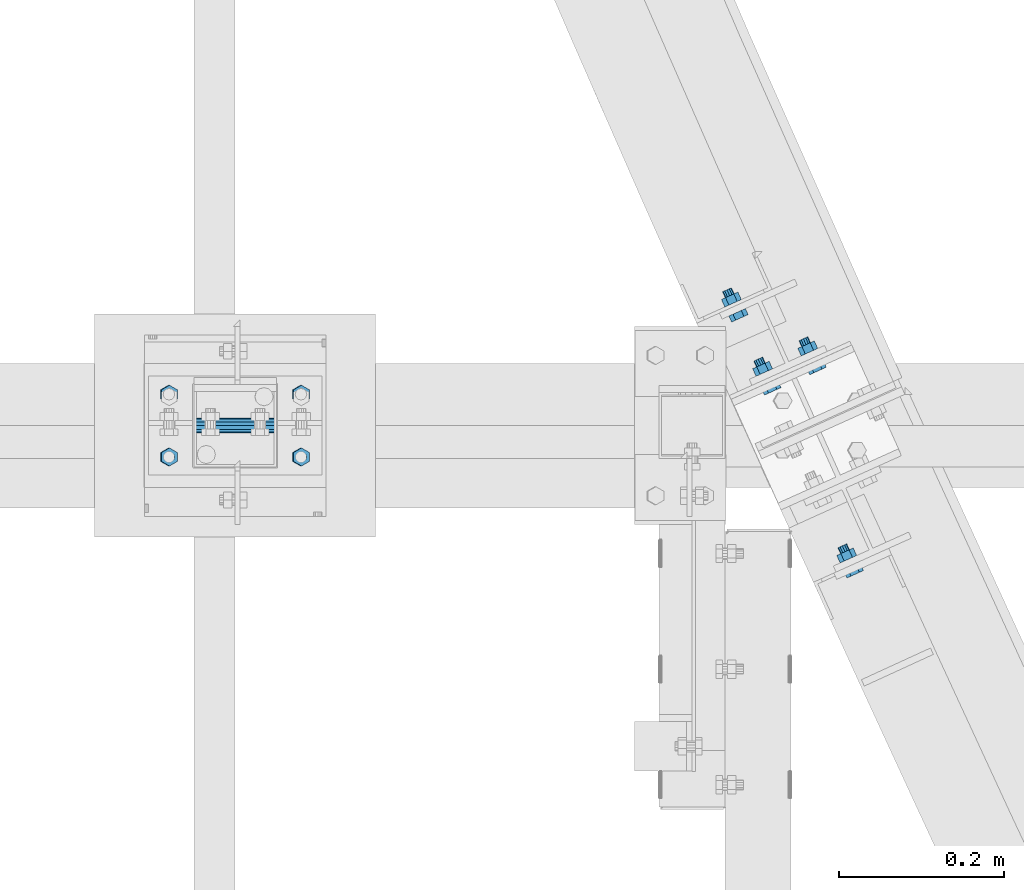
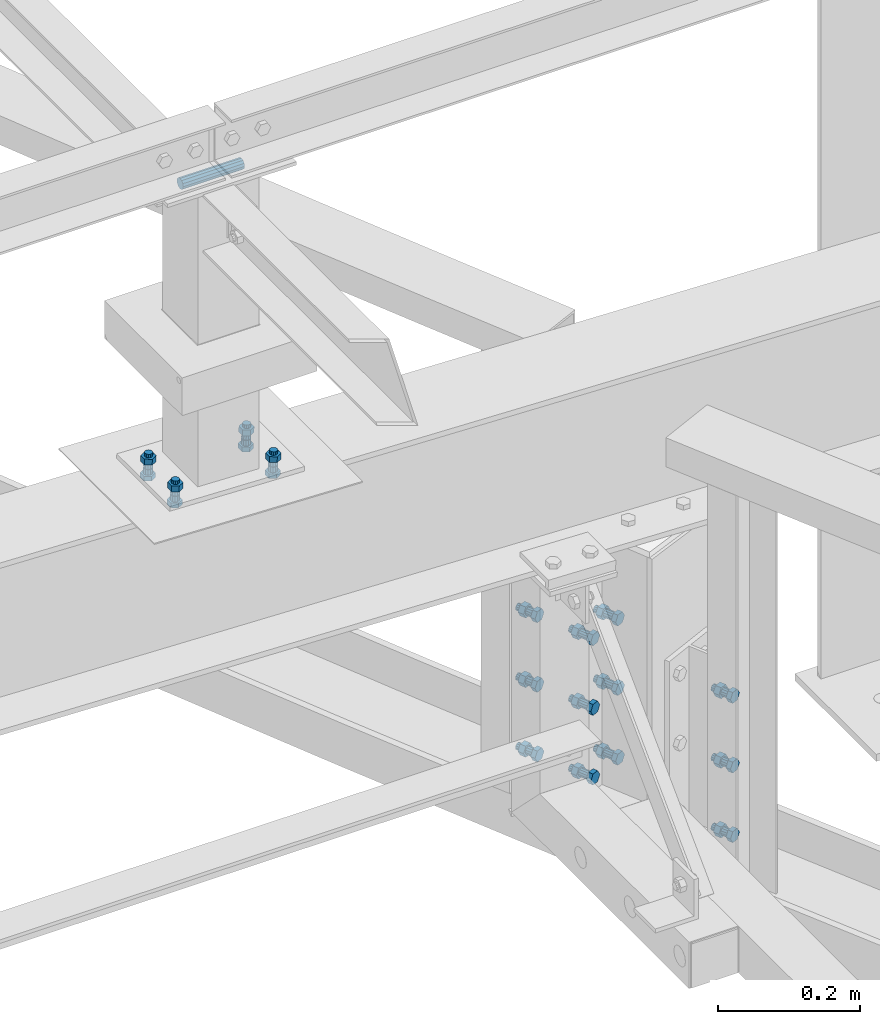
# One storey, part 50 of 3134: 5 mechanical fasteners, 4 elements without a shape of their own.
"""IFC2X3 building model written with IfcOpenShell, lengths in millimetres."""

from ifc_helpers import new_model, si_unit, frame, origin_with_axes, place, context, subcontext, project, spatial, faceted_brep, source, transform, mapped, material, type_object, element, aggregate, save


model = new_model("IFC2X3")

# Units and contexts
model_context = context("Model", 3, precision=1e-05, world=origin_with_axes())
body_context = subcontext(model_context, "Body", "Model", "MODEL_VIEW")
ifc_project = project(units=[si_unit("LENGTHUNIT", "METRE", prefix="MILLI"), si_unit("AREAUNIT", "SQUARE_METRE"), si_unit("VOLUMEUNIT", "CUBIC_METRE"), si_unit("MASSUNIT", "GRAM", prefix="KILO"), si_unit("TIMEUNIT", "SECOND"), si_unit("PLANEANGLEUNIT", "RADIAN"), si_unit("SOLIDANGLEUNIT", "STERADIAN"), si_unit("THERMODYNAMICTEMPERATUREUNIT", "DEGREE_CELSIUS"), si_unit("LUMINOUSINTENSITYUNIT", "LUMEN")], contexts=[model_context])

# Site, building, storey
site_placement = place(None, origin_with_axes())
site = spatial("IfcSite", under=ifc_project, at=site_placement, CompositionType="ELEMENT")
building_placement = place(site_placement, origin_with_axes())
building = spatial("IfcBuilding", under=site, at=building_placement, Name="Undefined", CompositionType="ELEMENT")
storey_placement = place(building_placement, origin_with_axes())
storey = spatial("IfcBuildingStorey", under=building, at=storey_placement, Name="Undefined", CompositionType="ELEMENT", Elevation=0.0)

# Assembly, mechanical fastener
assembly_1_placement = place(storey_placement, origin_with_axes())
assembly_1 = element("IfcElementAssembly", 1, at=assembly_1_placement, inside=storey, Name="HEA100", AssemblyPlace="NOTDEFINED", PredefinedType="RIGID_FRAME")
ifc_material = material(Name="8.8")
mechanical_fastener_type = type_object("IfcMechanicalFastenerType", Name="Bolt assembly")
shared_shape_1 = source(origin_with_axes(), body_context, "Body", "Brep", [
    faceted_brep([(10.9696551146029, -16.0, 0.0), (5.48482755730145, -16.0, 9.5), (-5.48482755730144, -16.0, 9.5), (-10.9696551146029, -16.0, 1.34339530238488e-15), (-5.48482755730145, -16.0, -9.5), (5.48482755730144, -16.0, -9.50000000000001), (5.48482755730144, -8.0, -9.50000000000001), (-5.48482755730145, -8.0, -9.5), (-10.9696551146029, -8.0, 1.34339530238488e-15), (-5.48482755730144, -8.0, 9.5), (5.48482755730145, -8.0, 9.5), (10.9696551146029, -8.0, 0.0), (6.0, -8.0, 0.0), (5.19615242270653, -8.0, 3.00000000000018), (2.99999999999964, -8.0, 5.19615242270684), (-6.21801588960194e-13, -8.0, 6.0), (-3.00000000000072, -8.0, 5.19615242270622), (-5.19615242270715, -8.0, 2.9999999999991), (-6.0, -8.0, -1.24360317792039e-12), (-5.19615242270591, -8.0, -3.00000000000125), (-2.99999999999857, -8.0, -5.19615242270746), (1.85874342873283e-12, -8.0, -6.0), (3.00000000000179, -8.0, -5.1961524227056), (5.19615242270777, -8.0, -2.99999999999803), (5.19615242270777, 22.0, -2.99999999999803), (3.00000000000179, 22.0, -5.1961524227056), (1.85874342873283e-12, 22.0, -6.0), (-2.99999999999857, 22.0, -5.19615242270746), (-5.19615242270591, 22.0, -3.00000000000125), (-6.0, 22.0, -1.24360317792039e-12), (-5.19615242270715, 22.0, 2.9999999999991), (-3.00000000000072, 22.0, 5.19615242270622), (-6.21801588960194e-13, 22.0, 6.0), (2.99999999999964, 22.0, 5.19615242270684), (5.19615242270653, 22.0, 3.00000000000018), (6.0, 22.0, 0.0), (10.9696551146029, 4.00000000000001, 0.0), (5.48482755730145, 4.00000000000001, 9.5), (-5.48482755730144, 4.00000000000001, 9.5), (-10.9696551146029, 4.00000000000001, 1.34339530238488e-15), (-5.48482755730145, 4.00000000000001, -9.5), (5.48482755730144, 4.00000000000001, -9.50000000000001), (5.48482755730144, 14.0, -9.50000000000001), (-5.48482755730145, 14.0, -9.5), (-10.9696551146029, 14.0, 1.34339530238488e-15), (-5.48482755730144, 14.0, 9.5), (5.48482755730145, 14.0, 9.5), (10.9696551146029, 14.0, 0.0)], [[[0, 1, 2, 3, 4, 5]], [[6, 7, 8, 9, 10, 11]], [[0, 11, 10, 1]], [[1, 10, 9, 2]], [[2, 9, 8, 3]], [[3, 8, 7, 4]], [[4, 7, 6, 5]], [[5, 6, 11, 0]], [[12, 13, 14, 15, 16, 17, 18, 19, 20, 21, 22, 23]], [[24, 25, 26, 27, 28, 29, 30, 31, 32, 33, 34, 35]], [[12, 35, 34, 13]], [[13, 34, 33, 14]], [[14, 33, 32, 15]], [[15, 32, 31, 16]], [[16, 31, 30, 17]], [[17, 30, 29, 18]], [[18, 29, 28, 19]], [[19, 28, 27, 20]], [[20, 27, 26, 21]], [[21, 26, 25, 22]], [[22, 25, 24, 23]], [[23, 24, 35, 12]], [[36, 37, 38, 39, 40, 41]], [[42, 43, 44, 45, 46, 47]], [[36, 47, 46, 37]], [[37, 46, 45, 38]], [[38, 45, 44, 39]], [[39, 44, 43, 40]], [[40, 43, 42, 41]], [[41, 42, 47, 36]]]),
    faceted_brep([(7.0, -0.1, 0.0), (6.06217782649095, -0.1, 3.50000000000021), (3.49999999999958, -0.1, 6.06217782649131), (-7.25435187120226e-13, -0.1, 7.0), (-3.50000000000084, -0.1, 6.06217782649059), (-6.06217782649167, -0.1, 3.49999999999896), (-7.0, -0.1, -1.45087037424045e-12), (-6.06217782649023, -0.1, -3.50000000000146), (-3.49999999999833, -0.1, -6.06217782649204), (2.1685340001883e-12, -0.1, -7.0), (3.50000000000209, -0.1, -6.06217782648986), (6.0621778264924, -0.1, -3.4999999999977), (6.0621778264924, 4.00000000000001, -3.4999999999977), (3.50000000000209, 4.00000000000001, -6.06217782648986), (2.1685340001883e-12, 4.00000000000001, -7.0), (-3.49999999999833, 4.00000000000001, -6.06217782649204), (-6.06217782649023, 4.00000000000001, -3.50000000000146), (-7.0, 4.00000000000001, -1.45087037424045e-12), (-6.06217782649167, 4.00000000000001, 3.49999999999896), (-3.50000000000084, 4.00000000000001, 6.06217782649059), (-7.25435187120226e-13, 4.00000000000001, 7.0), (3.49999999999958, 4.00000000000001, 6.06217782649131), (6.06217782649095, 4.00000000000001, 3.50000000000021), (7.0, 4.00000000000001, 0.0), (7.0, -7.9, 0.0), (6.06217782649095, -7.9, 3.50000000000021), (3.49999999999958, -7.9, 6.06217782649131), (-7.25435187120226e-13, -7.9, 7.0), (-3.50000000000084, -7.9, 6.06217782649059), (-6.06217782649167, -7.9, 3.49999999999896), (-7.0, -7.9, -1.45087037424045e-12), (-6.06217782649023, -7.9, -3.50000000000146), (-3.49999999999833, -7.9, -6.06217782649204), (2.1685340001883e-12, -7.9, -7.0), (3.50000000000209, -7.9, -6.06217782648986), (6.0621778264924, -7.9, -3.4999999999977), (6.0621778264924, 0.0999999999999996, -3.4999999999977), (3.50000000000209, 0.0999999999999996, -6.06217782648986), (2.1685340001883e-12, 0.0999999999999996, -7.0), (-3.49999999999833, 0.0999999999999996, -6.06217782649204), (-6.06217782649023, 0.0999999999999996, -3.50000000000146), (-7.0, 0.0999999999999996, -1.45087037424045e-12), (-6.06217782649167, 0.0999999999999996, 3.49999999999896), (-3.50000000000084, 0.0999999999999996, 6.06217782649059), (-7.25435187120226e-13, 0.0999999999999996, 7.0), (3.49999999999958, 0.0999999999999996, 6.06217782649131), (6.06217782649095, 0.0999999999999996, 3.50000000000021), (7.0, 0.0999999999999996, 0.0)], [[[0, 1, 2, 3, 4, 5, 6, 7, 8, 9, 10, 11]], [[12, 13, 14, 15, 16, 17, 18, 19, 20, 21, 22, 23]], [[0, 23, 22, 1]], [[1, 22, 21, 2]], [[2, 21, 20, 3]], [[3, 20, 19, 4]], [[4, 19, 18, 5]], [[5, 18, 17, 6]], [[6, 17, 16, 7]], [[7, 16, 15, 8]], [[8, 15, 14, 9]], [[9, 14, 13, 10]], [[10, 13, 12, 11]], [[11, 12, 23, 0]], [[24, 25, 26, 27, 28, 29, 30, 31, 32, 33, 34, 35]], [[36, 37, 38, 39, 40, 41, 42, 43, 44, 45, 46, 47]], [[24, 47, 46, 25]], [[25, 46, 45, 26]], [[26, 45, 44, 27]], [[27, 44, 43, 28]], [[28, 43, 42, 29]], [[29, 42, 41, 30]], [[30, 41, 40, 31]], [[31, 40, 39, 32]], [[32, 39, 38, 33]], [[33, 38, 37, 34]], [[34, 37, 36, 35]], [[35, 36, 47, 24]]]),
])
mechanical_fastener_1_placement = place(assembly_1_placement, frame((6296.25652461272, 15334.5011868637, 3170.0), z_axis=(0.0, 0.0, 1.0), x_axis=(0.911760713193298, 0.410721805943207, 0.0)))
mechanical_fastener_1 = element("IfcMechanicalFastener", 2, at=mechanical_fastener_1_placement, type_object=mechanical_fastener_type, material=ifc_material, Name="Bolt assembly", NominalDiameter=12.0, NominalLength=30.0, context=body_context, shape_type="MappedRepresentation", body=[
    mapped(shared_shape_1, transform((0.0, 0.0, -120.0))),
    mapped(shared_shape_1, transform((0.0, 0.0, 0.0))),
    mapped(shared_shape_1, transform((0.0, 0.0, 120.0))),
])
aggregate(assembly_1, [mechanical_fastener_1])

assembly_2_placement = place(storey_placement, origin_with_axes())
assembly_2 = element("IfcElementAssembly", 3, at=assembly_2_placement, inside=storey, Name="HEA100", AssemblyPlace="NOTDEFINED", PredefinedType="RIGID_FRAME")
shared_shape_2 = source(origin_with_axes(), body_context, "Body", "Brep", [
    faceted_brep([(10.9696551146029, -12.0, 0.0), (5.48482755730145, -12.0, 9.5), (-5.48482755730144, -12.0, 9.5), (-10.9696551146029, -12.0, 1.34339530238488e-15), (-5.48482755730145, -12.0, -9.5), (5.48482755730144, -12.0, -9.50000000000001), (5.48482755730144, -4.0, -9.50000000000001), (-5.48482755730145, -4.0, -9.5), (-10.9696551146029, -4.0, 1.34339530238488e-15), (-5.48482755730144, -4.0, 9.5), (5.48482755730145, -4.0, 9.5), (10.9696551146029, -4.0, 0.0), (6.0, -4.0, 0.0), (5.19615242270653, -4.0, 3.00000000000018), (2.99999999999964, -4.0, 5.19615242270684), (-6.21801588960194e-13, -4.0, 6.0), (-3.00000000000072, -4.0, 5.19615242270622), (-5.19615242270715, -4.0, 2.9999999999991), (-6.0, -4.0, -1.24360317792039e-12), (-5.19615242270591, -4.0, -3.00000000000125), (-2.99999999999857, -4.0, -5.19615242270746), (1.85874342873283e-12, -4.0, -6.0), (3.00000000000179, -4.0, -5.1961524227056), (5.19615242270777, -4.0, -2.99999999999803), (5.19615242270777, 26.0, -2.99999999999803), (3.00000000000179, 26.0, -5.1961524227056), (1.85874342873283e-12, 26.0, -6.0), (-2.99999999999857, 26.0, -5.19615242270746), (-5.19615242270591, 26.0, -3.00000000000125), (-6.0, 26.0, -1.24360317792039e-12), (-5.19615242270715, 26.0, 2.9999999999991), (-3.00000000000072, 26.0, 5.19615242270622), (-6.21801588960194e-13, 26.0, 6.0), (2.99999999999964, 26.0, 5.19615242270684), (5.19615242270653, 26.0, 3.00000000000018), (6.0, 26.0, 0.0), (10.9696551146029, 8.0, 0.0), (5.48482755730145, 8.0, 9.5), (-5.48482755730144, 8.0, 9.5), (-10.9696551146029, 8.0, 1.34339530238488e-15), (-5.48482755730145, 8.0, -9.5), (5.48482755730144, 8.0, -9.50000000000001), (5.48482755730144, 18.0, -9.50000000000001), (-5.48482755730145, 18.0, -9.5), (-10.9696551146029, 18.0, 1.34339530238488e-15), (-5.48482755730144, 18.0, 9.5), (5.48482755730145, 18.0, 9.5), (10.9696551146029, 18.0, 0.0)], [[[0, 1, 2, 3, 4, 5]], [[6, 7, 8, 9, 10, 11]], [[0, 11, 10, 1]], [[1, 10, 9, 2]], [[2, 9, 8, 3]], [[3, 8, 7, 4]], [[4, 7, 6, 5]], [[5, 6, 11, 0]], [[12, 13, 14, 15, 16, 17, 18, 19, 20, 21, 22, 23]], [[24, 25, 26, 27, 28, 29, 30, 31, 32, 33, 34, 35]], [[12, 35, 34, 13]], [[13, 34, 33, 14]], [[14, 33, 32, 15]], [[15, 32, 31, 16]], [[16, 31, 30, 17]], [[17, 30, 29, 18]], [[18, 29, 28, 19]], [[19, 28, 27, 20]], [[20, 27, 26, 21]], [[21, 26, 25, 22]], [[22, 25, 24, 23]], [[23, 24, 35, 12]], [[36, 37, 38, 39, 40, 41]], [[42, 43, 44, 45, 46, 47]], [[36, 47, 46, 37]], [[37, 46, 45, 38]], [[38, 45, 44, 39]], [[39, 44, 43, 40]], [[40, 43, 42, 41]], [[41, 42, 47, 36]]]),
    faceted_brep([(7.0, -3.9, 0.0), (6.06217782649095, -3.9, 3.50000000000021), (3.49999999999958, -3.9, 6.06217782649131), (-7.25435187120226e-13, -3.9, 7.0), (-3.50000000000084, -3.9, 6.06217782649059), (-6.06217782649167, -3.9, 3.49999999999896), (-7.0, -3.9, -1.45087037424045e-12), (-6.06217782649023, -3.9, -3.50000000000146), (-3.49999999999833, -3.9, -6.06217782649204), (2.1685340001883e-12, -3.9, -7.0), (3.50000000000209, -3.9, -6.06217782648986), (6.0621778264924, -3.9, -3.4999999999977), (6.0621778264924, 0.0999999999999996, -3.4999999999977), (3.50000000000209, 0.0999999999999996, -6.06217782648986), (2.1685340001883e-12, 0.0999999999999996, -7.0), (-3.49999999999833, 0.0999999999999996, -6.06217782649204), (-6.06217782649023, 0.0999999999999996, -3.50000000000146), (-7.0, 0.0999999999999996, -1.45087037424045e-12), (-6.06217782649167, 0.0999999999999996, 3.49999999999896), (-3.50000000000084, 0.0999999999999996, 6.06217782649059), (-7.25435187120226e-13, 0.0999999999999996, 7.0), (3.49999999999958, 0.0999999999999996, 6.06217782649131), (6.06217782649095, 0.0999999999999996, 3.50000000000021), (7.0, 0.0999999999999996, 0.0), (7.0, -0.1, 0.0), (6.06217782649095, -0.1, 3.50000000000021), (3.49999999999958, -0.1, 6.06217782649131), (-7.25435187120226e-13, -0.1, 7.0), (-3.50000000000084, -0.1, 6.06217782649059), (-6.06217782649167, -0.1, 3.49999999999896), (-7.0, -0.1, -1.45087037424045e-12), (-6.06217782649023, -0.1, -3.50000000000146), (-3.49999999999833, -0.1, -6.06217782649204), (2.1685340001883e-12, -0.1, -7.0), (3.50000000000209, -0.1, -6.06217782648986), (6.0621778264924, -0.1, -3.4999999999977), (6.0621778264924, 8.0000000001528, -3.4999999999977), (3.50000000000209, 8.0000000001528, -6.06217782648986), (2.1685340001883e-12, 8.0000000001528, -7.0), (-3.49999999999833, 8.0000000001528, -6.06217782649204), (-6.06217782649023, 8.0000000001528, -3.50000000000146), (-7.0, 8.0000000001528, -1.45087037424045e-12), (-6.06217782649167, 8.0000000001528, 3.49999999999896), (-3.50000000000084, 8.0000000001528, 6.06217782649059), (-7.25435187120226e-13, 8.0000000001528, 7.0), (3.49999999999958, 8.0000000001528, 6.06217782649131), (6.06217782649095, 8.0000000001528, 3.50000000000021), (7.0, 8.0000000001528, 0.0)], [[[0, 1, 2, 3, 4, 5, 6, 7, 8, 9, 10, 11]], [[12, 13, 14, 15, 16, 17, 18, 19, 20, 21, 22, 23]], [[0, 23, 22, 1]], [[1, 22, 21, 2]], [[2, 21, 20, 3]], [[3, 20, 19, 4]], [[4, 19, 18, 5]], [[5, 18, 17, 6]], [[6, 17, 16, 7]], [[7, 16, 15, 8]], [[8, 15, 14, 9]], [[9, 14, 13, 10]], [[10, 13, 12, 11]], [[11, 12, 23, 0]], [[24, 25, 26, 27, 28, 29, 30, 31, 32, 33, 34, 35]], [[36, 37, 38, 39, 40, 41, 42, 43, 44, 45, 46, 47]], [[24, 47, 46, 25]], [[25, 46, 45, 26]], [[26, 45, 44, 27]], [[27, 44, 43, 28]], [[28, 43, 42, 29]], [[29, 42, 41, 30]], [[30, 41, 40, 31]], [[31, 40, 39, 32]], [[32, 39, 38, 33]], [[33, 38, 37, 34]], [[34, 37, 36, 35]], [[35, 36, 47, 24]]]),
])
mechanical_fastener_2_placement = place(assembly_2_placement, frame((6437.54483106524, 15020.8555038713, 3170.0), z_axis=(0.0, 0.0, 1.0), x_axis=(0.911760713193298, 0.410721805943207, 0.0)))
mechanical_fastener_2 = element("IfcMechanicalFastener", 4, at=mechanical_fastener_2_placement, type_object=mechanical_fastener_type, material=ifc_material, Name="Bolt assembly", NominalDiameter=12.0, NominalLength=30.0, context=body_context, shape_type="MappedRepresentation", body=[
    mapped(shared_shape_2, transform((0.0, 0.0, -120.0))),
    mapped(shared_shape_2, transform((0.0, 0.0, 0.0))),
    mapped(shared_shape_2, transform((0.0, 0.0, 120.0))),
])
aggregate(assembly_2, [mechanical_fastener_2])

assembly_3_placement = place(storey_placement, origin_with_axes())
assembly_3 = element("IfcElementAssembly", 5, at=assembly_3_placement, inside=storey, Name="HEA160", AssemblyPlace="NOTDEFINED", PredefinedType="RIGID_FRAME")
shared_shape_3 = source(origin_with_axes(), body_context, "Body", "Brep", [
    faceted_brep([(10.9696551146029, -17.0000000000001, 0.0), (5.48482755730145, -17.0000000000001, 9.5), (-5.48482755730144, -17.0000000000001, 9.5), (-10.9696551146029, -17.0000000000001, 1.34339530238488e-15), (-5.48482755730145, -17.0000000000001, -9.5), (5.48482755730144, -17.0000000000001, -9.50000000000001), (5.48482755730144, -9.00000000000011, -9.50000000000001), (-5.48482755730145, -9.00000000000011, -9.5), (-10.9696551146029, -9.00000000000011, 1.34339530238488e-15), (-5.48482755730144, -9.00000000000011, 9.5), (5.48482755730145, -9.00000000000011, 9.5), (10.9696551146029, -9.00000000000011, 0.0), (6.0, -9.00000000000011, 0.0), (5.19615242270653, -9.00000000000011, 3.00000000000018), (2.99999999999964, -9.00000000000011, 5.19615242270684), (-6.21801588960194e-13, -9.00000000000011, 6.0), (-3.00000000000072, -9.00000000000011, 5.19615242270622), (-5.19615242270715, -9.00000000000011, 2.9999999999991), (-6.0, -9.00000000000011, -1.24360317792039e-12), (-5.19615242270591, -9.00000000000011, -3.00000000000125), (-2.99999999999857, -9.00000000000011, -5.19615242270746), (1.85874342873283e-12, -9.00000000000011, -6.0), (3.00000000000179, -9.00000000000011, -5.1961524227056), (5.19615242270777, -9.00000000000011, -2.99999999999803), (5.19615242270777, 26.0, -2.99999999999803), (3.00000000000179, 26.0, -5.1961524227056), (1.85874342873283e-12, 26.0, -6.0), (-2.99999999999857, 26.0, -5.19615242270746), (-5.19615242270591, 26.0, -3.00000000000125), (-6.0, 26.0, -1.24360317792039e-12), (-5.19615242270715, 26.0, 2.9999999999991), (-3.00000000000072, 26.0, 5.19615242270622), (-6.21801588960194e-13, 26.0, 6.0), (2.99999999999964, 26.0, 5.19615242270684), (5.19615242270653, 26.0, 3.00000000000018), (6.0, 26.0, 0.0), (10.9696551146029, 8.0, 0.0), (5.48482755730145, 8.0, 9.5), (-5.48482755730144, 8.0, 9.5), (-10.9696551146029, 8.0, 1.34339530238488e-15), (-5.48482755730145, 8.0, -9.5), (5.48482755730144, 8.0, -9.50000000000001), (5.48482755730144, 18.0, -9.50000000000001), (-5.48482755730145, 18.0, -9.5), (-10.9696551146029, 18.0, 1.34339530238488e-15), (-5.48482755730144, 18.0, 9.5), (5.48482755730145, 18.0, 9.5), (10.9696551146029, 18.0, 0.0)], [[[0, 1, 2, 3, 4, 5]], [[6, 7, 8, 9, 10, 11]], [[0, 11, 10, 1]], [[1, 10, 9, 2]], [[2, 9, 8, 3]], [[3, 8, 7, 4]], [[4, 7, 6, 5]], [[5, 6, 11, 0]], [[12, 13, 14, 15, 16, 17, 18, 19, 20, 21, 22, 23]], [[24, 25, 26, 27, 28, 29, 30, 31, 32, 33, 34, 35]], [[12, 35, 34, 13]], [[13, 34, 33, 14]], [[14, 33, 32, 15]], [[15, 32, 31, 16]], [[16, 31, 30, 17]], [[17, 30, 29, 18]], [[18, 29, 28, 19]], [[19, 28, 27, 20]], [[20, 27, 26, 21]], [[21, 26, 25, 22]], [[22, 25, 24, 23]], [[23, 24, 35, 12]], [[36, 37, 38, 39, 40, 41]], [[42, 43, 44, 45, 46, 47]], [[36, 47, 46, 37]], [[37, 46, 45, 38]], [[38, 45, 44, 39]], [[39, 44, 43, 40]], [[40, 43, 42, 41]], [[41, 42, 47, 36]]]),
    faceted_brep([(7.0, -0.1, 0.0), (6.06217782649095, -0.1, 3.50000000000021), (3.49999999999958, -0.1, 6.06217782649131), (-7.25435187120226e-13, -0.1, 7.0), (-3.50000000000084, -0.1, 6.06217782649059), (-6.06217782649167, -0.1, 3.49999999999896), (-7.0, -0.1, -1.45087037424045e-12), (-6.06217782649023, -0.1, -3.50000000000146), (-3.49999999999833, -0.1, -6.06217782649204), (2.1685340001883e-12, -0.1, -7.0), (3.50000000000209, -0.1, -6.06217782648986), (6.0621778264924, -0.1, -3.4999999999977), (6.0621778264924, 8.0000000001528, -3.4999999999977), (3.50000000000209, 8.0000000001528, -6.06217782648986), (2.1685340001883e-12, 8.0000000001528, -7.0), (-3.49999999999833, 8.0000000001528, -6.06217782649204), (-6.06217782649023, 8.0000000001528, -3.50000000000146), (-7.0, 8.0000000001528, -1.45087037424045e-12), (-6.06217782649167, 8.0000000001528, 3.49999999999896), (-3.50000000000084, 8.0000000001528, 6.06217782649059), (-7.25435187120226e-13, 8.0000000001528, 7.0), (3.49999999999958, 8.0000000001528, 6.06217782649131), (6.06217782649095, 8.0000000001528, 3.50000000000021), (7.0, 8.0000000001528, 0.0), (7.0, -8.90000000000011, 0.0), (6.06217782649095, -8.90000000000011, 3.50000000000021), (3.49999999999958, -8.90000000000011, 6.06217782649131), (-7.25435187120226e-13, -8.90000000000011, 7.0), (-3.50000000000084, -8.90000000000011, 6.06217782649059), (-6.06217782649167, -8.90000000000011, 3.49999999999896), (-7.0, -8.90000000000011, -1.45087037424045e-12), (-6.06217782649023, -8.90000000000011, -3.50000000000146), (-3.49999999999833, -8.90000000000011, -6.06217782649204), (2.1685340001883e-12, -8.90000000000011, -7.0), (3.50000000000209, -8.90000000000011, -6.06217782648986), (6.0621778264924, -8.90000000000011, -3.4999999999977), (6.0621778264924, 0.0999999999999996, -3.4999999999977), (3.50000000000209, 0.0999999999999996, -6.06217782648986), (2.1685340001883e-12, 0.0999999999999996, -7.0), (-3.49999999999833, 0.0999999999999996, -6.06217782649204), (-6.06217782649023, 0.0999999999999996, -3.50000000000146), (-7.0, 0.0999999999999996, -1.45087037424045e-12), (-6.06217782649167, 0.0999999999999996, 3.49999999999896), (-3.50000000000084, 0.0999999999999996, 6.06217782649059), (-7.25435187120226e-13, 0.0999999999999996, 7.0), (3.49999999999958, 0.0999999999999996, 6.06217782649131), (6.06217782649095, 0.0999999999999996, 3.50000000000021), (7.0, 0.0999999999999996, 0.0)], [[[0, 1, 2, 3, 4, 5, 6, 7, 8, 9, 10, 11]], [[12, 13, 14, 15, 16, 17, 18, 19, 20, 21, 22, 23]], [[0, 23, 22, 1]], [[1, 22, 21, 2]], [[2, 21, 20, 3]], [[3, 20, 19, 4]], [[4, 19, 18, 5]], [[5, 18, 17, 6]], [[6, 17, 16, 7]], [[7, 16, 15, 8]], [[8, 15, 14, 9]], [[9, 14, 13, 10]], [[10, 13, 12, 11]], [[11, 12, 23, 0]], [[24, 25, 26, 27, 28, 29, 30, 31, 32, 33, 34, 35]], [[36, 37, 38, 39, 40, 41, 42, 43, 44, 45, 46, 47]], [[24, 47, 46, 25]], [[25, 46, 45, 26]], [[26, 45, 44, 27]], [[27, 44, 43, 28]], [[28, 43, 42, 29]], [[29, 42, 41, 30]], [[30, 41, 40, 31]], [[31, 40, 39, 32]], [[32, 39, 38, 33]], [[33, 38, 37, 34]], [[34, 37, 36, 35]], [[35, 36, 47, 24]]]),
])
mechanical_fastener_3_placement = place(assembly_3_placement, frame((6335.68581943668, 15246.9721590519, 3170.0), z_axis=(0.0, 0.0, 1.0), x_axis=(0.911760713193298, 0.410721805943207, 0.0)))
mechanical_fastener_3 = element("IfcMechanicalFastener", 6, at=mechanical_fastener_3_placement, type_object=mechanical_fastener_type, material=ifc_material, Name="Bolt assembly", NominalDiameter=12.0, NominalLength=35.0, context=body_context, shape_type="MappedRepresentation", body=[
    mapped(shared_shape_3, transform((0.0, 0.0, -120.0))),
    mapped(shared_shape_3, transform((60.0000000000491, 0.0, -120.0))),
    mapped(shared_shape_3, transform((0.0, 0.0, 0.0))),
    mapped(shared_shape_3, transform((59.9999999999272, 0.0, 5.40239852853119e-10))),
    mapped(shared_shape_3, transform((0.0, 0.0, 120.0))),
    mapped(shared_shape_3, transform((60.0000000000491, 0.0, 120.0))),
])
aggregate(assembly_3, [mechanical_fastener_3])

# Assembly, mechanical fasteners
assembly_4_placement = place(storey_placement, origin_with_axes())
assembly_4 = element("IfcElementAssembly", 7, at=assembly_4_placement, inside=storey, AssemblyPlace="NOTDEFINED", PredefinedType="RIGID_FRAME")
shared_shape_4 = source(origin_with_axes(), body_context, "Body", "Brep", [
    faceted_brep([(10.9696551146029, -4.18280906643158, 0.0), (5.48482755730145, -4.18280906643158, 9.5), (-5.48482755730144, -4.18280906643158, 9.5), (-10.9696551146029, -4.18280906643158, 1.34339530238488e-15), (-5.48482755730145, -4.18280906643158, -9.5), (5.48482755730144, -4.18280906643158, -9.50000000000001), (5.48482755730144, 3.81719093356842, -9.50000000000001), (-5.48482755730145, 3.81719093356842, -9.5), (-10.9696551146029, 3.81719093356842, 1.34339530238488e-15), (-5.48482755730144, 3.81719093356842, 9.5), (5.48482755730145, 3.81719093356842, 9.5), (10.9696551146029, 3.81719093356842, 0.0), (6.0, 3.81719093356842, 0.0), (5.19615242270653, 3.81719093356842, 3.00000000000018), (2.99999999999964, 3.81719093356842, 5.19615242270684), (-6.21801588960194e-13, 3.81719093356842, 6.0), (-3.00000000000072, 3.81719093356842, 5.19615242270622), (-5.19615242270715, 3.81719093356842, 2.9999999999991), (-6.0, 3.81719093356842, -1.24360317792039e-12), (-5.19615242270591, 3.81719093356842, -3.00000000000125), (-2.99999999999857, 3.81719093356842, -5.19615242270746), (1.85874342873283e-12, 3.81719093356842, -6.0), (3.00000000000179, 3.81719093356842, -5.1961524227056), (5.19615242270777, 3.81719093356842, -2.99999999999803), (5.19615242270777, 38.8171909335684, -2.99999999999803), (3.00000000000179, 38.8171909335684, -5.1961524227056), (1.85874342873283e-12, 38.8171909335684, -6.0), (-2.99999999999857, 38.8171909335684, -5.19615242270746), (-5.19615242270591, 38.8171909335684, -3.00000000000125), (-6.0, 38.8171909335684, -1.24360317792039e-12), (-5.19615242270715, 38.8171909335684, 2.9999999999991), (-3.00000000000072, 38.8171909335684, 5.19615242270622), (-6.21801588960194e-13, 38.8171909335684, 6.0), (2.99999999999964, 38.8171909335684, 5.19615242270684), (5.19615242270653, 38.8171909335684, 3.00000000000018), (6.0, 38.8171909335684, 0.0), (10.9696551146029, 23.0139082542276, 0.0), (5.48482755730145, 23.0139082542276, 9.5), (-5.48482755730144, 23.0139082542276, 9.5), (-10.9696551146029, 23.0139082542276, 1.34339530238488e-15), (-5.48482755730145, 23.0139082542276, -9.5), (5.48482755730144, 23.0139082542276, -9.50000000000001), (5.48482755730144, 33.0139082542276, -9.50000000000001), (-5.48482755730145, 33.0139082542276, -9.5), (-10.9696551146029, 33.0139082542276, 1.34339530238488e-15), (-5.48482755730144, 33.0139082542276, 9.5), (5.48482755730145, 33.0139082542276, 9.5), (10.9696551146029, 33.0139082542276, 0.0)], [[[0, 1, 2, 3, 4, 5]], [[6, 7, 8, 9, 10, 11]], [[0, 11, 10, 1]], [[1, 10, 9, 2]], [[2, 9, 8, 3]], [[3, 8, 7, 4]], [[4, 7, 6, 5]], [[5, 6, 11, 0]], [[12, 13, 14, 15, 16, 17, 18, 19, 20, 21, 22, 23]], [[24, 25, 26, 27, 28, 29, 30, 31, 32, 33, 34, 35]], [[12, 35, 34, 13]], [[13, 34, 33, 14]], [[14, 33, 32, 15]], [[15, 32, 31, 16]], [[16, 31, 30, 17]], [[17, 30, 29, 18]], [[18, 29, 28, 19]], [[19, 28, 27, 20]], [[20, 27, 26, 21]], [[21, 26, 25, 22]], [[22, 25, 24, 23]], [[23, 24, 35, 12]], [[36, 37, 38, 39, 40, 41]], [[42, 43, 44, 45, 46, 47]], [[36, 47, 46, 37]], [[37, 46, 45, 38]], [[38, 45, 44, 39]], [[39, 44, 43, 40]], [[40, 43, 42, 41]], [[41, 42, 47, 36]]]),
    faceted_brep([(7.0, 3.91719093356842, 0.0), (6.06217782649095, 3.91719093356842, 3.50000000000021), (3.49999999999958, 3.91719093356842, 6.06217782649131), (-7.25435187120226e-13, 3.91719093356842, 7.0), (-3.50000000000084, 3.91719093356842, 6.06217782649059), (-6.06217782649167, 3.91719093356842, 3.49999999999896), (-7.0, 3.91719093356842, -1.45087037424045e-12), (-6.06217782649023, 3.91719093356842, -3.50000000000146), (-3.49999999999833, 3.91719093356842, -6.06217782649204), (2.1685340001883e-12, 3.91719093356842, -7.0), (3.50000000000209, 3.91719093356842, -6.06217782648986), (6.0621778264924, 3.91719093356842, -3.4999999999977), (6.0621778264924, 13.1171907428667, -3.4999999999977), (3.50000000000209, 13.1171907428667, -6.06217782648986), (2.1685340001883e-12, 13.1171907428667, -7.0), (-3.49999999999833, 13.1171907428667, -6.06217782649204), (-6.06217782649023, 13.1171907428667, -3.50000000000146), (-7.0, 13.1171907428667, -1.45087037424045e-12), (-6.06217782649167, 13.1171907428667, 3.49999999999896), (-3.50000000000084, 13.1171907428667, 6.06217782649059), (-7.25435187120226e-13, 13.1171907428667, 7.0), (3.49999999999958, 13.1171907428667, 6.06217782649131), (6.06217782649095, 13.1171907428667, 3.50000000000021), (7.0, 13.1171907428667, 0.0), (7.0, 14.9139082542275, 0.0), (6.06217782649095, 14.9139082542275, 3.50000000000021), (3.49999999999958, 14.9139082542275, 6.06217782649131), (-7.25435187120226e-13, 14.9139082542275, 7.0), (-3.50000000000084, 14.9139082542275, 6.06217782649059), (-6.06217782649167, 14.9139082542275, 3.49999999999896), (-7.0, 14.9139082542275, -1.45087037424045e-12), (-6.06217782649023, 14.9139082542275, -3.50000000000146), (-3.49999999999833, 14.9139082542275, -6.06217782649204), (2.1685340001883e-12, 14.9139082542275, -7.0), (3.50000000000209, 14.9139082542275, -6.06217782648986), (6.0621778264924, 14.9139082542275, -3.4999999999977), (6.0621778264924, 23.0139082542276, -3.4999999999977), (3.50000000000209, 23.0139082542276, -6.06217782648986), (2.1685340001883e-12, 23.0139082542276, -7.0), (-3.49999999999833, 23.0139082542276, -6.06217782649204), (-6.06217782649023, 23.0139082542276, -3.50000000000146), (-7.0, 23.0139082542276, -1.45087037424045e-12), (-6.06217782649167, 23.0139082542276, 3.49999999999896), (-3.50000000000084, 23.0139082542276, 6.06217782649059), (-7.25435187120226e-13, 23.0139082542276, 7.0), (3.49999999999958, 23.0139082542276, 6.06217782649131), (6.06217782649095, 23.0139082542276, 3.50000000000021), (7.0, 23.0139082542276, 0.0)], [[[0, 1, 2, 3, 4, 5, 6, 7, 8, 9, 10, 11]], [[12, 13, 14, 15, 16, 17, 18, 19, 20, 21, 22, 23]], [[0, 23, 22, 1]], [[1, 22, 21, 2]], [[2, 21, 20, 3]], [[3, 20, 19, 4]], [[4, 19, 18, 5]], [[5, 18, 17, 6]], [[6, 17, 16, 7]], [[7, 16, 15, 8]], [[8, 15, 14, 9]], [[9, 14, 13, 10]], [[10, 13, 12, 11]], [[11, 12, 23, 0]], [[24, 25, 26, 27, 28, 29, 30, 31, 32, 33, 34, 35]], [[36, 37, 38, 39, 40, 41, 42, 43, 44, 45, 46, 47]], [[24, 47, 46, 25]], [[25, 46, 45, 26]], [[26, 45, 44, 27]], [[27, 44, 43, 28]], [[28, 43, 42, 29]], [[29, 42, 41, 30]], [[30, 41, 40, 31]], [[31, 40, 39, 32]], [[32, 39, 38, 33]], [[33, 38, 37, 34]], [[34, 37, 36, 35]], [[35, 36, 47, 24]]]),
])
mechanical_fastener_4_placement = place(assembly_4_placement, frame((5690.86474073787, 15227.9999999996, 3827.79222028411), z_axis=(-0.999387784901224, 0.0, 0.0349865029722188), x_axis=(0.0, -1.0, 0.0)))
mechanical_fastener_4 = element("IfcMechanicalFastener", 8, at=mechanical_fastener_4_placement, type_object=mechanical_fastener_type, material=ifc_material, Name="Bolt assembly", NominalDiameter=12.0, NominalLength=35.0, context=body_context, shape_type="MappedRepresentation", body=[
    mapped(shared_shape_4, transform((0.0, -5.32963895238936e-10, -79.9999999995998))),
    mapped(shared_shape_4, transform((76.0, -5.32963895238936e-10, -79.9999999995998))),
    mapped(shared_shape_4, transform((0.0, 5.3114490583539e-10, 79.9999999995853))),
    mapped(shared_shape_4, transform((76.0, 5.3114490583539e-10, 79.9999999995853))),
])
shared_shape_5 = source(origin_with_axes(), body_context, "Body", "Brep", [
    faceted_brep([(9.0, -50.0, 0.0), (7.79422863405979, -50.0, 4.50000000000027), (4.49999999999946, -50.0, 7.79422863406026), (-9.3270238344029e-13, -50.0, 9.0), (-4.50000000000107, -50.0, 7.79422863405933), (-7.79422863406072, -50.0, 4.49999999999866), (-9.0, -50.0, -1.86540476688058e-12), (-7.79422863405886, -50.0, -4.50000000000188), (-4.49999999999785, -50.0, -7.79422863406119), (2.78811514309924e-12, -50.0, -9.0), (4.50000000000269, -50.0, -7.7942286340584), (7.79422863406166, -50.0, -4.49999999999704), (7.79422863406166, 50.1, -4.49999999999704), (4.50000000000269, 50.1, -7.7942286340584), (2.78811514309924e-12, 50.1, -9.0), (-4.49999999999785, 50.1, -7.79422863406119), (-7.79422863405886, 50.1, -4.50000000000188), (-9.0, 50.1, -1.86540476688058e-12), (-7.79422863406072, 50.1, 4.49999999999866), (-4.50000000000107, 50.1, 7.79422863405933), (-9.3270238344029e-13, 50.1, 9.0), (4.49999999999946, 50.1, 7.79422863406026), (7.79422863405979, 50.1, 4.50000000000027), (9.0, 50.1, 0.0)], [[[0, 1, 2, 3, 4, 5, 6, 7, 8, 9, 10, 11]], [[12, 13, 14, 15, 16, 17, 18, 19, 20, 21, 22, 23]], [[0, 23, 22, 1]], [[1, 22, 21, 2]], [[2, 21, 20, 3]], [[3, 20, 19, 4]], [[4, 19, 18, 5]], [[5, 18, 17, 6]], [[6, 17, 16, 7]], [[7, 16, 15, 8]], [[8, 15, 14, 9]], [[9, 14, 13, 10]], [[10, 13, 12, 11]], [[11, 12, 23, 0]]]),
])
mechanical_fastener_5_placement = place(assembly_4_placement, frame((5691.67, 15190.0, 4345.0), z_axis=(0.0, 1.0, 0.0), x_axis=(0.0, 0.0, 1.0)))
mechanical_fastener_5 = element("IfcMechanicalFastener", 9, at=mechanical_fastener_5_placement, type_object=mechanical_fastener_type, material=ifc_material, Name="Bolt assembly", NominalDiameter=16.0, NominalLength=100.0, context=body_context, shape_type="MappedRepresentation", body=[
    mapped(shared_shape_5, transform((0.0, 0.0, 0.0))),
])
aggregate(assembly_4, [mechanical_fastener_4, mechanical_fastener_5])

save(model, "model.ifc")
